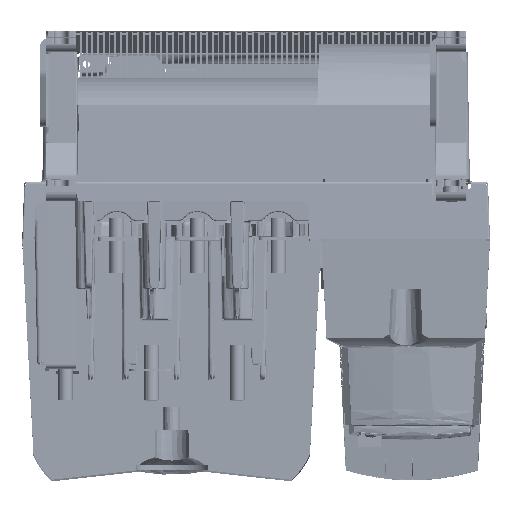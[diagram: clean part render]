
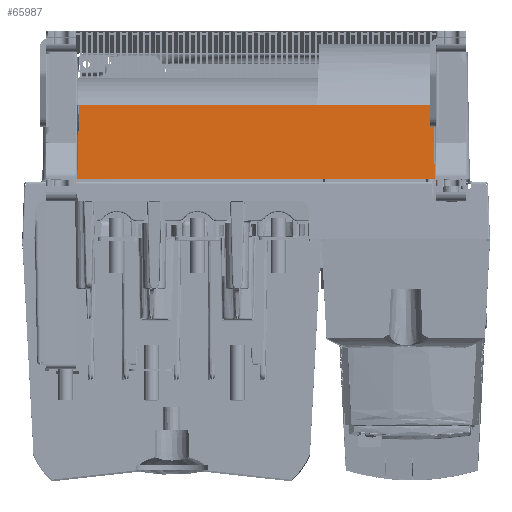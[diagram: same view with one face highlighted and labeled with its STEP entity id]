
A CAD part, top view. The second image highlights one B-rep face of the part: STEP entity #65987.
In plain terms, the highlighted planar face has unit normal (0, 0.035, 0.999).
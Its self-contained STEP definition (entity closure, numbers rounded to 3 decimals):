
#19843=DIRECTION('',(1.,0.,0.));
#19844=VECTOR('',#19843,234.615);
#19845=CARTESIAN_POINT('',(37.692,-49.153,
810.652));
#19846=LINE('',#19845,#19844);
#19847=CARTESIAN_POINT('',(272.308,-49.153,
810.652));
#19848=CARTESIAN_POINT('',(272.321,-52.327,
810.763));
#19849=CARTESIAN_POINT('',(272.356,-58.415,
810.975));
#19850=CARTESIAN_POINT('',(272.433,-66.741,
811.266));
#19851=CARTESIAN_POINT('',(272.536,-74.32,
811.531));
#19852=CARTESIAN_POINT('',(272.668,-81.185,
811.771));
#19853=CARTESIAN_POINT('',(272.834,-87.381,
811.987));
#19854=CARTESIAN_POINT('',(273.062,-92.963,
812.182));
#19855=CARTESIAN_POINT('',(273.26,-96.346,
812.3));
#19856=CARTESIAN_POINT('',(273.446,-97.94,
812.356));
#19858=DIRECTION('',(-1.,0.,0.));
#19859=VECTOR('',#19858,236.892);
#19860=CARTESIAN_POINT('',(273.446,-97.94,
812.356));
#19861=LINE('',#19860,#19859);
#19862=CARTESIAN_POINT('',(36.554,-97.94,
812.356));
#19863=CARTESIAN_POINT('',(36.743,-96.327,
812.299));
#19864=CARTESIAN_POINT('',(36.941,-92.908,
812.18));
#19865=CARTESIAN_POINT('',(37.17,-87.257,
811.983));
#19866=CARTESIAN_POINT('',(37.335,-81.052,
811.766));
#19867=CARTESIAN_POINT('',(37.464,-74.321,
811.531));
#19868=CARTESIAN_POINT('',(37.565,-66.921,
811.272));
#19869=CARTESIAN_POINT('',(37.642,-58.687,
810.985));
#19870=CARTESIAN_POINT('',(37.679,-52.445,
810.767));
#19871=CARTESIAN_POINT('',(37.692,-49.153,
810.652));
#52861=CARTESIAN_POINT('',(273.446,-97.94,
812.356));
#52862=CARTESIAN_POINT('',(36.554,-97.94,
812.356));
#52863=VERTEX_POINT('',#52861);
#52864=VERTEX_POINT('',#52862);
#52868=CARTESIAN_POINT('',(272.308,-49.153,
810.652));
#52869=CARTESIAN_POINT('',(37.692,-49.153,
810.652));
#52870=VERTEX_POINT('',#52868);
#52871=VERTEX_POINT('',#52869);
#65972=CARTESIAN_POINT('',(0.,-48.67,810.635));
#65973=DIRECTION('',(0.,0.035,0.999));
#65974=DIRECTION('',(0.,-0.999,0.035));
#65975=AXIS2_PLACEMENT_3D('',#65972,#65973,#65974);
#65976=PLANE('',#65975);
#65978=ORIENTED_EDGE('',*,*,#65977,.T.);
#65980=ORIENTED_EDGE('',*,*,#65979,.T.);
#65982=ORIENTED_EDGE('',*,*,#65981,.T.);
#65984=ORIENTED_EDGE('',*,*,#65983,.T.);
#65985=EDGE_LOOP('',(#65978,#65980,#65982,#65984));
#65986=FACE_OUTER_BOUND('',#65985,.F.);
#65987=ADVANCED_FACE('',(#65986),#65976,.T.);
#19857=B_SPLINE_CURVE_WITH_KNOTS('',3,(#19847,#19848,#19849,#19850,#19851,
#19852,#19853,#19854,#19855,#19856),.UNSPECIFIED.,.F.,.F.,(4,1,1,1,1,1,1,4),(
0.,0.143,0.286,0.429,0.571,
0.714,0.857,1.),.UNSPECIFIED.);
#19872=B_SPLINE_CURVE_WITH_KNOTS('',3,(#19862,#19863,#19864,#19865,#19866,
#19867,#19868,#19869,#19870,#19871),.UNSPECIFIED.,.F.,.F.,(4,1,1,1,1,1,1,4),(
0.,0.143,0.286,0.429,0.571,
0.714,0.857,1.),.UNSPECIFIED.);
#65977=EDGE_CURVE('',#52871,#52870,#19846,.T.);
#65979=EDGE_CURVE('',#52870,#52863,#19857,.T.);
#65981=EDGE_CURVE('',#52863,#52864,#19861,.T.);
#65983=EDGE_CURVE('',#52864,#52871,#19872,.T.);
